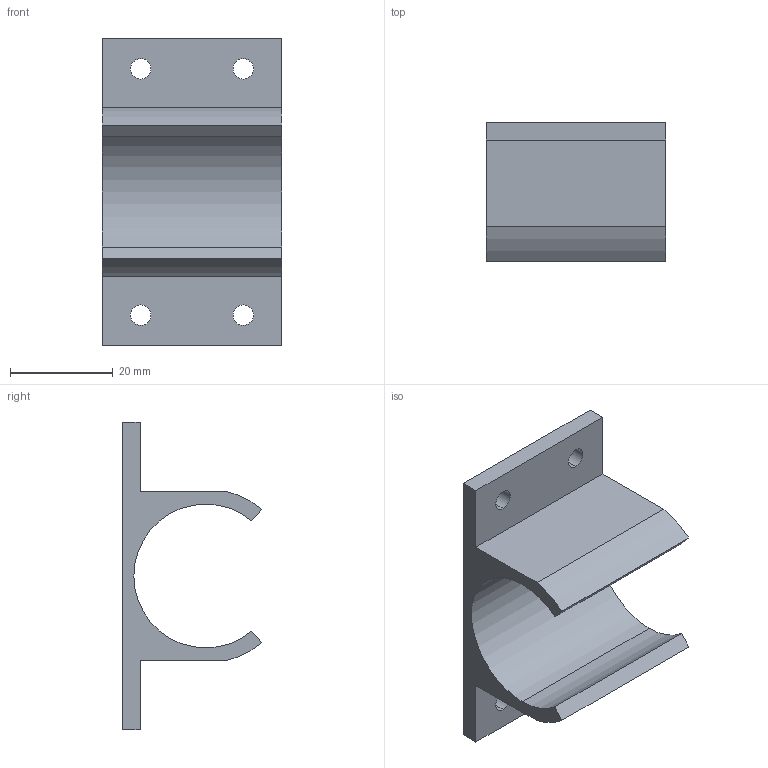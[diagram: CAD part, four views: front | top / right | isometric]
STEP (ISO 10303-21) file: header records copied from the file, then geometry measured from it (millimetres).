
FILE_DESCRIPTION (( 'STEP AP214' ), '1' );
FILE_NAME ('PJ-703.STEP', '2023-09-12T11:24:05', ( 'catia' ), ( 'HP Inc.' ), 'SwSTEP 2.0', 'SolidWorks 2021', '' );
FILE_SCHEMA (( 'AUTOMOTIVE_DESIGN' ));
Length unit declared in the file: millimetre
Products named in the file (1): PJ-703
Bounding box: 35 x 27.18 x 60 mm (x, y, z)
Volume: 13301.3 mm3; surface area: 8289.5 mm2
Topology: 1 solids, 1 shells, 24 faces, 66 edges, 44 vertices
Faces by surface type: cylinder 13, plane 11
Entity records: 826 total; most frequent: DIRECTION 142, CARTESIAN_POINT 135, ORIENTED_EDGE 132, EDGE_CURVE 66, AXIS2_PLACEMENT_3D 51, VERTEX_POINT 44, LINE 40, VECTOR 40
